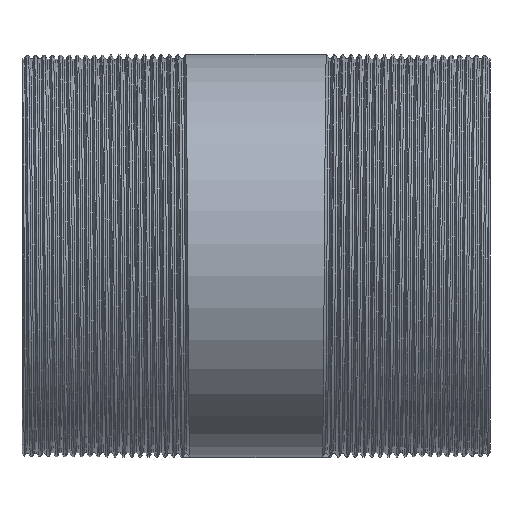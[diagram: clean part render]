
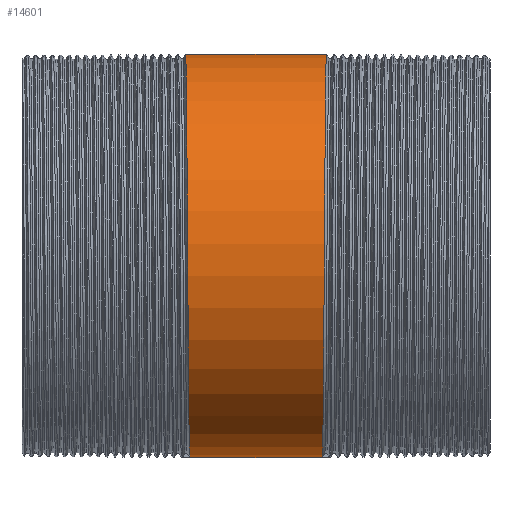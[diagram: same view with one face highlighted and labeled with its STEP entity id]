
A CAD part, front view. The second image highlights one B-rep face of the part: STEP entity #14601.
In plain terms, the highlighted cylindrical face has radius 30.15 mm (diameter 60.3 mm), a partial arc.
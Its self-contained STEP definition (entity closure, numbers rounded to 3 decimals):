
#930 = VERTEX_POINT ( 'NONE', #5454 ) ;
#1229 = CARTESIAN_POINT ( 'NONE',  ( 10.531, 0., 30.15 ) ) ;
#1761 = ORIENTED_EDGE ( 'NONE', *, *, #13949, .F. ) ;
#2222 = AXIS2_PLACEMENT_3D ( 'NONE', #6096, #13314, #11745 ) ;
#2447 = CARTESIAN_POINT ( 'NONE',  ( 9.984, -12.489, -30.15 ) ) ;
#2631 = CARTESIAN_POINT ( 'NONE',  ( 10.297, -30.15, 12.489 ) ) ;
#2755 = CARTESIAN_POINT ( 'NONE',  ( -149.494, 0., 30.15 ) ) ;
#2847 = LINE ( 'NONE', #2755, #11192 ) ;
#3003 = EDGE_CURVE ( 'NONE', #930, #13495, #15002, .T. ) ;
#3059 = DIRECTION ( 'NONE',  ( -1., 0., 0. ) ) ;
#3815 = VERTEX_POINT ( 'NONE', #16223 ) ;
#5228 = CARTESIAN_POINT ( 'NONE',  ( 10.375, -21.319, 21.319 ) ) ;
#5454 = CARTESIAN_POINT ( 'NONE',  ( -9.906, 0., -30.15 ) ) ;
#5935 = LINE ( 'NONE', #17226, #6647 ) ;
#6096 = CARTESIAN_POINT ( 'NONE',  ( -149.494, 0., 0. ) ) ;
#6258 = CARTESIAN_POINT ( 'NONE',  ( -9.984, -12.489, -30.15 ) ) ;
#6499 = VERTEX_POINT ( 'NONE', #12407 ) ;
#6647 = VECTOR ( 'NONE', #3059, 1000. ) ;
#6713 = CARTESIAN_POINT ( 'NONE',  ( 10.219, -30.15, 0. ) ) ;
#7440 =( BOUNDED_CURVE ( )  B_SPLINE_CURVE ( 2, ( #17999, #2447, #10980, #16705, #6713, #2631, #5228, #15226, #1229 ),
 .UNSPECIFIED., .F., .T. ) 
 B_SPLINE_CURVE_WITH_KNOTS ( ( 3, 2, 2, 2, 3 ),
 ( 0., 0.006, 0.013, 0.019, 0.025 ),
 .UNSPECIFIED. ) 
 CURVE ( )  GEOMETRIC_REPRESENTATION_ITEM ( )  RATIONAL_B_SPLINE_CURVE ( ( 1., 0.924, 1., 0.924, 1., 0.924, 1., 0.924, 1. ) ) 
 REPRESENTATION_ITEM ( '' )  );
#7739 = CARTESIAN_POINT ( 'NONE',  ( -10.531, 0., 30.15 ) ) ;
#8016 = CARTESIAN_POINT ( 'NONE',  ( -10.375, -21.319, 21.319 ) ) ;
#8589 = ORIENTED_EDGE ( 'NONE', *, *, #3003, .F. ) ;
#9304 = CARTESIAN_POINT ( 'NONE',  ( -10.141, -30.15, -12.489 ) ) ;
#9393 = CARTESIAN_POINT ( 'NONE',  ( -10.297, -30.15, 12.489 ) ) ;
#9553 = ORIENTED_EDGE ( 'NONE', *, *, #15736, .T. ) ;
#9670 = CARTESIAN_POINT ( 'NONE',  ( -10.063, -21.319, -21.319 ) ) ;
#10073 = DIRECTION ( 'NONE',  ( -1., 0., 0. ) ) ;
#10980 = CARTESIAN_POINT ( 'NONE',  ( 10.063, -21.319, -21.319 ) ) ;
#11192 = VECTOR ( 'NONE', #10073, 1000. ) ;
#11745 = DIRECTION ( 'NONE',  ( 0., 0., 1. ) ) ;
#12014 = FACE_OUTER_BOUND ( 'NONE', #17191, .T. ) ;
#12407 = CARTESIAN_POINT ( 'NONE',  ( 10.531, 0., 30.15 ) ) ;
#13293 = CARTESIAN_POINT ( 'NONE',  ( -9.906, 0., -30.15 ) ) ;
#13314 = DIRECTION ( 'NONE',  ( -1., 0., 0. ) ) ;
#13495 = VERTEX_POINT ( 'NONE', #7739 ) ;
#13835 = CARTESIAN_POINT ( 'NONE',  ( -10.453, -12.489, 30.15 ) ) ;
#13949 = EDGE_CURVE ( 'NONE', #3815, #930, #5935, .T. ) ;
#14361 = ORIENTED_EDGE ( 'NONE', *, *, #17488, .T. ) ;
#14601 = ADVANCED_FACE ( 'NONE', ( #12014 ), #17660, .T. ) ;
#15002 =( BOUNDED_CURVE ( )  B_SPLINE_CURVE ( 2, ( #13293, #6258, #9670, #9304, #17821, #9393, #8016, #13835, #15318 ),
 .UNSPECIFIED., .F., .F. ) 
 B_SPLINE_CURVE_WITH_KNOTS ( ( 3, 2, 2, 2, 3 ),
 ( 0., 0.006, 0.013, 0.019, 0.025 ),
 .UNSPECIFIED. ) 
 CURVE ( )  GEOMETRIC_REPRESENTATION_ITEM ( )  RATIONAL_B_SPLINE_CURVE ( ( 1., 0.924, 1., 0.924, 1., 0.924, 1., 0.924, 1. ) ) 
 REPRESENTATION_ITEM ( '' )  );
#15226 = CARTESIAN_POINT ( 'NONE',  ( 10.453, -12.489, 30.15 ) ) ;
#15318 = CARTESIAN_POINT ( 'NONE',  ( -10.531, 0., 30.15 ) ) ;
#15736 = EDGE_CURVE ( 'NONE', #3815, #6499, #7440, .T. ) ;
#16223 = CARTESIAN_POINT ( 'NONE',  ( 9.906, 0., -30.15 ) ) ;
#16705 = CARTESIAN_POINT ( 'NONE',  ( 10.141, -30.15, -12.489 ) ) ;
#17191 = EDGE_LOOP ( 'NONE', ( #1761, #9553, #14361, #8589 ) ) ;
#17226 = CARTESIAN_POINT ( 'NONE',  ( -149.494, 0., -30.15 ) ) ;
#17488 = EDGE_CURVE ( 'NONE', #6499, #13495, #2847, .T. ) ;
#17660 = CYLINDRICAL_SURFACE ( 'NONE', #2222, 30.15 ) ;
#17821 = CARTESIAN_POINT ( 'NONE',  ( -10.219, -30.15, 0. ) ) ;
#17999 = CARTESIAN_POINT ( 'NONE',  ( 9.906, 0., -30.15 ) ) ;
